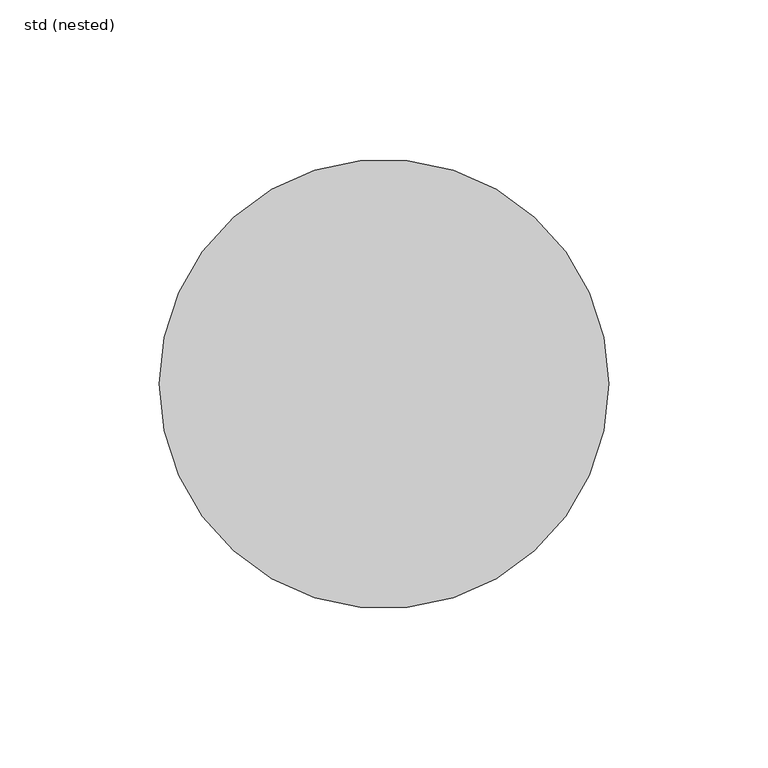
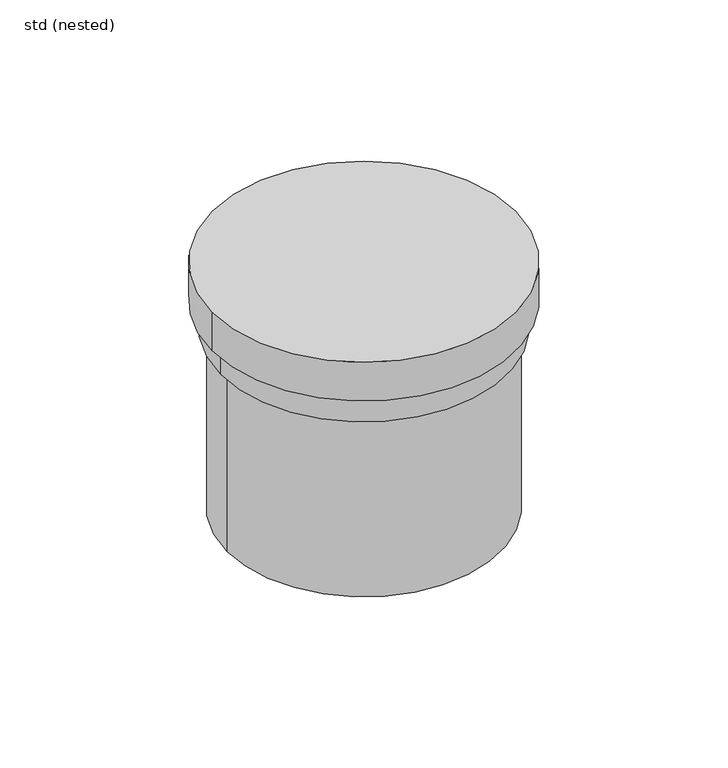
"""IFC4 building model written with IfcOpenShell, lengths in millimetres: sanitary terminal geometry, ZZZ_do_not_use_PF_GEN_UN_connecting piece_ACO : std (nested)."""

from ifc_helpers import new_model, si_unit, point, frame, origin, origin_2d, place, context, project, spatial, circle_curve, trimmed, segment, composite_curve, outline, extrude, source, transform, mapped, element, save


def std_nested_36d552d5(model_context):
    return source(origin(), model_context, "Body", "SweptSolid", [
        extrude(outline(composite_curve([segment(trimmed(circle_curve(origin_2d(), 63.5), [point((-63.5, 0.0))], [point((63.5, 0.0))], False, "CARTESIAN"), True, "CONTINUOUS"), segment(trimmed(circle_curve(origin_2d(), 63.5), [point((63.5, 0.0))], [point((-63.5, 0.0))], False, "CARTESIAN"), True, "CONTINUOUS")], self_intersect=False)), frame((0.0, 0.0, -120.0), z_axis=(0.0, 0.0, 1.0), x_axis=(1.0, 0.0, 0.0)), (0.0, 0.0, 1.0), 88.0),
        extrude(outline(composite_curve([segment(trimmed(circle_curve(origin_2d(), 66.5), [point((-66.5, 0.0))], [point((66.5, 0.0))], False, "CARTESIAN"), True, "CONTINUOUS"), segment(trimmed(circle_curve(origin_2d(), 66.5), [point((66.5, 0.0))], [point((-66.5, 0.0))], False, "CARTESIAN"), True, "CONTINUOUS")], self_intersect=False)), frame((0.0, 0.0, -32.0), z_axis=(0.0, 0.0, 1.0), x_axis=(1.0, 0.0, 0.0)), (0.0, 0.0, 1.0), 13.0),
        extrude(outline(composite_curve([segment(trimmed(circle_curve(origin_2d(), 70.5), [point((-70.5, 0.0))], [point((70.5, 0.0))], False, "CARTESIAN"), True, "CONTINUOUS"), segment(trimmed(circle_curve(origin_2d(), 70.5), [point((70.5, 0.0))], [point((-70.5, 0.0))], False, "CARTESIAN"), True, "CONTINUOUS")], self_intersect=False)), frame((0.0, 0.0, -19.0), z_axis=(0.0, 0.0, 1.0), x_axis=(1.0, 0.0, 0.0)), (0.0, 0.0, 1.0), 19.0),
    ])


if __name__ == "__main__":
    model = new_model("IFC4")
    model_context = context("Model", 3, world=origin())
    ifc_project = project(units=[si_unit("LENGTHUNIT", "METRE", prefix="MILLI")], contexts=[model_context])
    site = spatial("IfcSite", under=ifc_project)
    building = spatial("IfcBuilding", under=site)
    placement = place(None, origin())
    std_nested_shape = std_nested_36d552d5(model_context)
    element("IfcSanitaryTerminal", 1, ObjectType="ZZZ_do_not_use_PF_GEN_UN_connecting piece_ACO : std (nested)", at=placement, inside=building, context=model_context, shape_type="MappedRepresentation", body=[
        mapped(std_nested_shape, transform((0.0, 0.0, 0.0), x_axis=(1.0, 0.0, 0.0), y_axis=(0.0, 1.0, 0.0), z_axis=(0.0, 0.0, 1.0))),
    ])
    save(model, "model.ifc")
